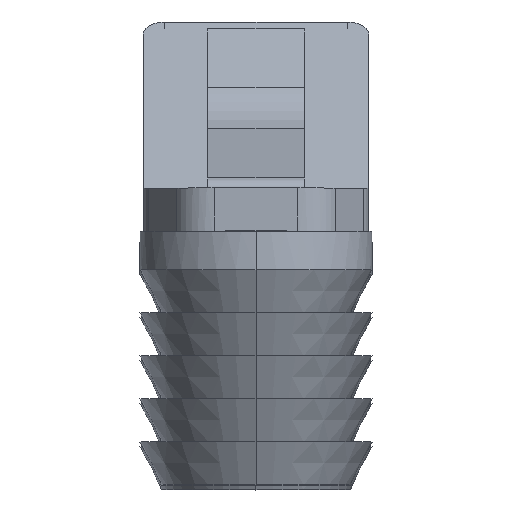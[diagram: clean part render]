
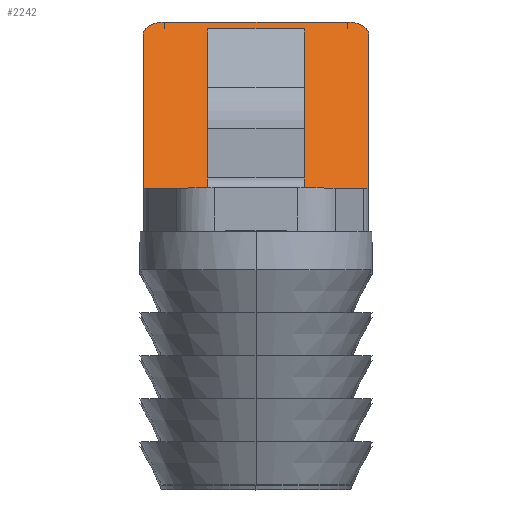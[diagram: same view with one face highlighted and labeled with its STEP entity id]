
A CAD part, top view. The second image highlights one B-rep face of the part: STEP entity #2242.
In plain terms, the highlighted planar face has unit normal (0, 0.788, 0.616).
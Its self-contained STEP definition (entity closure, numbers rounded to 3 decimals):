
#189 = ORIENTED_EDGE ( 'NONE', *, *, #613, .F. ) ;
#190 = ORIENTED_EDGE ( 'NONE', *, *, #614, .T. ) ;
#191 = ORIENTED_EDGE ( 'NONE', *, *, #610, .T. ) ;
#192 = ORIENTED_EDGE ( 'NONE', *, *, #615, .T. ) ;
#193 = ORIENTED_EDGE ( 'NONE', *, *, #597, .T. ) ;
#194 = ORIENTED_EDGE ( 'NONE', *, *, #616, .F. ) ;
#504 = EDGE_LOOP ( 'NONE', ( #189, #190, #191, #192, #193, #194 ) ) ;
#597 = EDGE_CURVE ( 'NONE', #1439, #1419, #2805, .T. ) ;
#610 = EDGE_CURVE ( 'NONE', #1344, #1664, #2627, .T. ) ;
#613 = EDGE_CURVE ( 'NONE', #1415, #1648, #2592, .T. ) ;
#614 = EDGE_CURVE ( 'NONE', #1415, #1344, #2663, .T. ) ;
#615 = EDGE_CURVE ( 'NONE', #1664, #1439, #2825, .T. ) ;
#616 = EDGE_CURVE ( 'NONE', #1648, #1419, #2645, .T. ) ;
#658 = AXIS2_PLACEMENT_3D ( 'NONE', #1971, #1969, #1970 ) ;
#797 = AXIS2_PLACEMENT_3D ( 'NONE', #1432, #1431, #1433 ) ;
#826 = AXIS2_PLACEMENT_3D ( 'NONE', #1435, #1434, #1436 ) ;
#1292 = CARTESIAN_POINT ( 'NONE',  ( -5.25, 10.004, -159.694 ) ) ;
#1344 = VERTEX_POINT ( 'NONE', #1568 ) ;
#1415 = VERTEX_POINT ( 'NONE', #1678 ) ;
#1419 = VERTEX_POINT ( 'NONE', #1679 ) ;
#1421 = CARTESIAN_POINT ( 'NONE',  ( 5.25, 10.004, -159.694 ) ) ;
#1422 = DIRECTION ( 'NONE',  ( -1., 0., 0. ) ) ;
#1428 = CARTESIAN_POINT ( 'NONE',  ( 5.25, 10.004, -159.694 ) ) ;
#1430 = DIRECTION ( 'NONE',  ( 0., -0.616, 0.788 ) ) ;
#1431 = DIRECTION ( 'NONE',  ( 0., 0.788, 0.616 ) ) ;
#1432 = CARTESIAN_POINT ( 'NONE',  ( 4.25, 9.388, -158.906 ) ) ;
#1433 = DIRECTION ( 'NONE',  ( 0., 0.616, -0.788 ) ) ;
#1434 = DIRECTION ( 'NONE',  ( 0., 0.788, 0.616 ) ) ;
#1435 = CARTESIAN_POINT ( 'NONE',  ( -4.25, 9.388, -158.906 ) ) ;
#1436 = DIRECTION ( 'NONE',  ( 0., 0.616, -0.788 ) ) ;
#1437 = DIRECTION ( 'NONE',  ( -1., 0., 0. ) ) ;
#1438 = CARTESIAN_POINT ( 'NONE',  ( 5.25, 2.106, -149.586 ) ) ;
#1439 = VERTEX_POINT ( 'NONE', #1684 ) ;
#1568 = CARTESIAN_POINT ( 'NONE',  ( 4.25, 10.004, -159.694 ) ) ;
#1648 = VERTEX_POINT ( 'NONE', #1807 ) ;
#1664 = VERTEX_POINT ( 'NONE', #1704 ) ;
#1678 = CARTESIAN_POINT ( 'NONE',  ( 5.25, 9.388, -158.906 ) ) ;
#1679 = CARTESIAN_POINT ( 'NONE',  ( -5.25, 2.106, -149.586 ) ) ;
#1684 = CARTESIAN_POINT ( 'NONE',  ( -5.25, 9.388, -158.906 ) ) ;
#1694 = DIRECTION ( 'NONE',  ( 0., -0.616, 0.788 ) ) ;
#1704 = CARTESIAN_POINT ( 'NONE',  ( -4.25, 10.004, -159.694 ) ) ;
#1807 = CARTESIAN_POINT ( 'NONE',  ( 5.25, 2.106, -149.586 ) ) ;
#1965 = PLANE ( 'NONE',  #658 ) ;
#1969 = DIRECTION ( 'NONE',  ( 0., -0.788, -0.616 ) ) ;
#1970 = DIRECTION ( 'NONE',  ( 0., 0.616, -0.788 ) ) ;
#1971 = CARTESIAN_POINT ( 'NONE',  ( 5.25, 10.004, -159.694 ) ) ;
#2242 = ADVANCED_FACE ( 'NONE', ( #2516 ), #1965, .F. ) ;
#2516 = FACE_OUTER_BOUND ( 'NONE', #504, .T. ) ;
#2592 = LINE ( 'NONE', #1428, #2595 ) ;
#2595 = VECTOR ( 'NONE', #1430, 1000. ) ;
#2603 = VECTOR ( 'NONE', #1422, 1000. ) ;
#2627 = LINE ( 'NONE', #1421, #2603 ) ;
#2645 = LINE ( 'NONE', #1438, #2822 ) ;
#2663 = CIRCLE ( 'NONE', #797, 1. ) ;
#2805 = LINE ( 'NONE', #1292, #2807 ) ;
#2807 = VECTOR ( 'NONE', #1694, 1000. ) ;
#2822 = VECTOR ( 'NONE', #1437, 1000. ) ;
#2825 = CIRCLE ( 'NONE', #826, 1. ) ;
